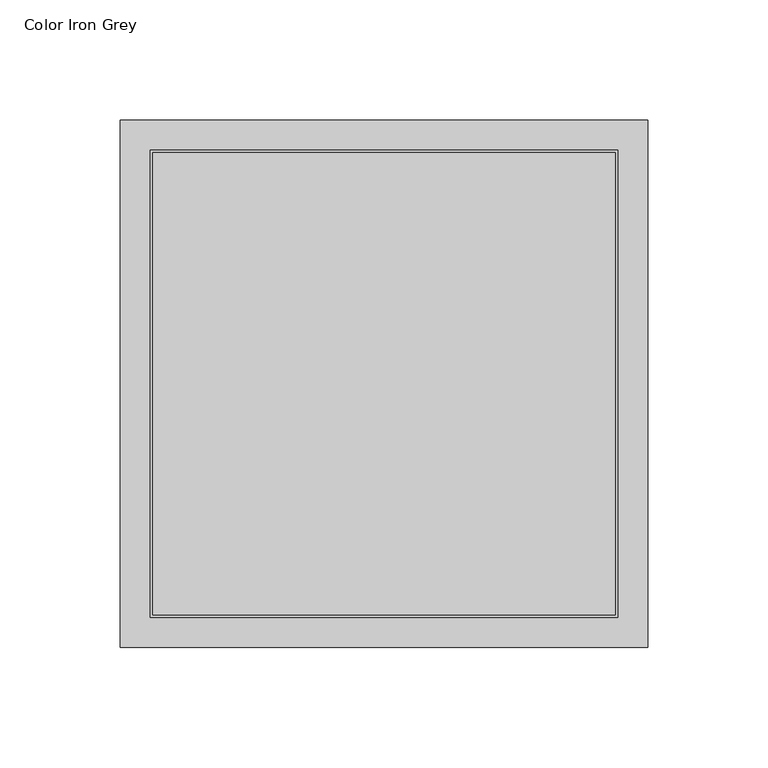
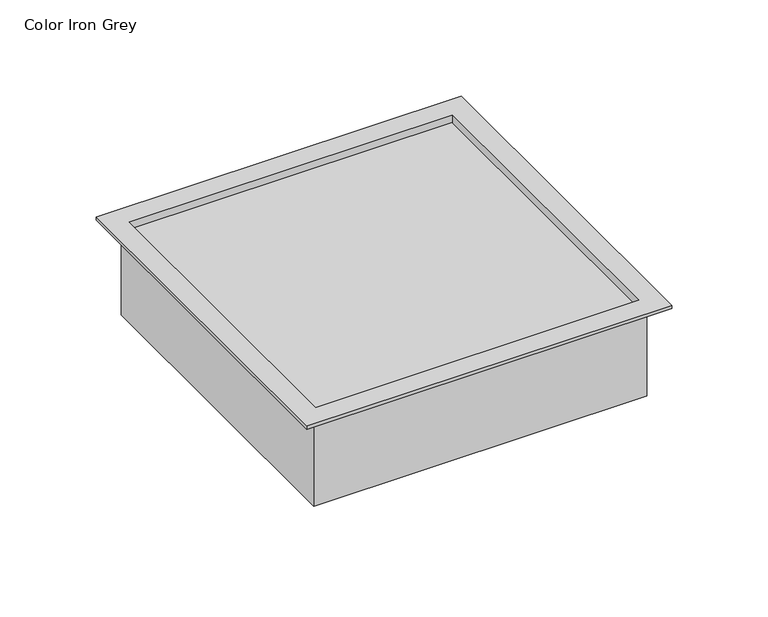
"""IFC4 building model written with IfcOpenShell, lengths in millimetres: proxy geometry, Electrical_Installation_Hager_VE-EE_Cover-VDQ06 : Color Iron Grey."""

from ifc_helpers import new_model, si_unit, frame, origin, place, context, project, spatial, polyline, outline, extrude, faceted_brep, source, transform, mapped, element, save


def color_iron_grey_fbafdded(model_context):
    return source(origin(), model_context, "Body", "SolidModel", [
        faceted_brep([(109.5, 109.5, 2.0), (-109.5, 109.5, 2.0), (-109.5, -109.5, 2.0), (109.5, -109.5, 2.0), (97.0, 97.0195312, 2.0), (97.0, -97.0195312, 2.0), (-97.0, -97.0195312, 2.0), (-97.0, 97.0195312, 2.0), (109.5, 109.5, 0.0), (109.5, -109.5, 0.0), (-109.5, -109.5, 0.0), (-109.5, 109.5, 0.0), (100.0, 100.0, 0.0), (-100.0, 100.0, 0.0), (-100.0, -100.0, 0.0), (100.0, -100.0, 0.0), (-97.0, 97.0195312, -58.0), (97.0, 97.0195312, -58.0), (-97.0, -97.0195312, -58.0), (97.0, -97.0195312, -58.0), (100.0, 100.0, -58.0), (100.0, -100.0, -58.0), (-100.0, -100.0, -58.0), (-100.0, 100.0, -58.0)], [[[0, 1, 2, 3], [4, 5, 6, 7]], [[8, 9, 10, 11], [12, 13, 14, 15]], [[4, 7, 16, 17]], [[16, 7, 6, 18]], [[18, 6, 5, 19]], [[19, 5, 4, 17]], [[1, 0, 8, 11]], [[2, 1, 11, 10]], [[3, 2, 10, 9]], [[0, 3, 9, 8]], [[20, 21, 22, 23], [17, 16, 18, 19]], [[20, 23, 13, 12]], [[23, 22, 14, 13]], [[22, 21, 15, 14]], [[21, 20, 12, 15]]]),
        extrude(outline(polyline([(-97.0, -97.0195312), (-97.0, 97.0195312), (97.0, 97.0195312), (97.0, -97.0195312), (-97.0, -97.0195312)])), frame((0.0, 0.0, -8.0), z_axis=(0.0, 0.0, 1.0), x_axis=(1.0, 0.0, 0.0)), (0.0, 0.0, 1.0), 5.0),
        extrude(outline(polyline([(-96.0, 96.0), (96.0, 96.0), (96.0, -96.0), (-96.0, -96.0), (-96.0, 96.0)])), frame((0.0, 0.0, -3.0), z_axis=(0.0, 0.0, 1.0), x_axis=(1.0, 0.0, 0.0)), (0.0, 0.0, 1.0), 1.0),
    ])


if __name__ == "__main__":
    model = new_model("IFC4")
    model_context = context("Model", 3, world=origin())
    ifc_project = project(units=[si_unit("LENGTHUNIT", "METRE", prefix="MILLI")], contexts=[model_context])
    site = spatial("IfcSite", under=ifc_project)
    building = spatial("IfcBuilding", under=site)
    placement = place(None, origin())
    color_iron_grey_shape = color_iron_grey_fbafdded(model_context)
    element("IfcBuildingElementProxy", 1, Name="Electrical_Installation_Hager_VE-EE_Cover-VDQ06 : Color Iron Grey", ObjectType="Electrical_Installation_Hager_VE-EE_Cover-VDQ06 : Color Iron Grey", at=placement, inside=building, context=model_context, shape_type="MappedRepresentation", body=[
        mapped(color_iron_grey_shape, transform((0.0, 0.0, 0.0), x_axis=(1.0, 0.0, 0.0), y_axis=(0.0, 1.0, 0.0), z_axis=(0.0, 0.0, 1.0))),
    ])
    save(model, "model.ifc")
